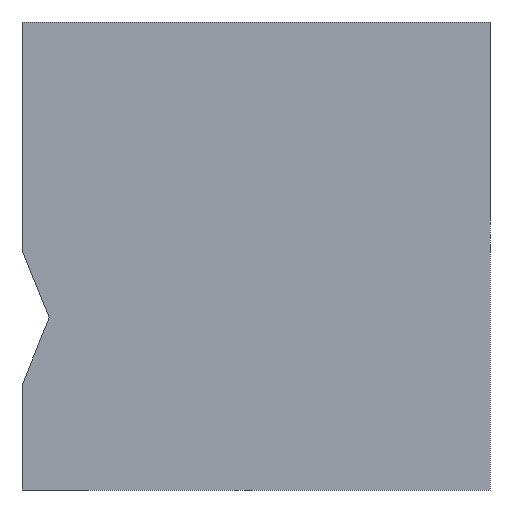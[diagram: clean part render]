
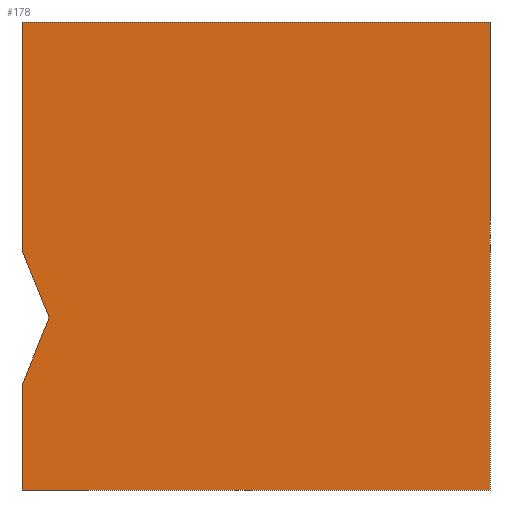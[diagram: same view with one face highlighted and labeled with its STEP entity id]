
A CAD part, front view. The second image highlights one B-rep face of the part: STEP entity #178.
In plain terms, the highlighted planar face has unit normal (0, -1, 0).
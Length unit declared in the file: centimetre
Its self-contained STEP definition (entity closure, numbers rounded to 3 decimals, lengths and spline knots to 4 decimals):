
#2 = CARTESIAN_POINT ( 'NONE',  ( 0., 0., 223.8413 ) ) ;
#19 = VECTOR ( 'NONE', #396, 100. ) ;
#62 = EDGE_CURVE ( 'NONE', #1088, #918, #844, .T. ) ;
#94 = DIRECTION ( 'NONE',  ( 0.374, 0., 0.927 ) ) ;
#132 = ORIENTED_EDGE ( 'NONE', *, *, #341, .F. ) ;
#157 = CARTESIAN_POINT ( 'NONE',  ( 0., 0., 1000. ) ) ;
#174 = VERTEX_POINT ( 'NONE', #1003 ) ;
#178 = ADVANCED_FACE ( 'NONE', ( #760 ), #919, .F. ) ;
#180 = DIRECTION ( 'NONE',  ( 1., 0., 0. ) ) ;
#244 = CARTESIAN_POINT ( 'NONE',  ( 0., 0., 1000. ) ) ;
#251 = EDGE_CURVE ( 'NONE', #324, #296, #1008, .T. ) ;
#261 = CARTESIAN_POINT ( 'NONE',  ( 1000., 0., 1000. ) ) ;
#285 = VECTOR ( 'NONE', #94, 100. ) ;
#296 = VERTEX_POINT ( 'NONE', #261 ) ;
#303 = CARTESIAN_POINT ( 'NONE',  ( 1000., 0., 1000. ) ) ;
#324 = VERTEX_POINT ( 'NONE', #1109 ) ;
#333 = EDGE_CURVE ( 'NONE', #918, #174, #1023, .T. ) ;
#337 = CARTESIAN_POINT ( 'NONE',  ( 0., 0., 0. ) ) ;
#341 = EDGE_CURVE ( 'NONE', #751, #801, #343, .T. ) ;
#343 = LINE ( 'NONE', #948, #374 ) ;
#374 = VECTOR ( 'NONE', #770, 100. ) ;
#396 = DIRECTION ( 'NONE',  ( 0., 0., -1. ) ) ;
#432 = AXIS2_PLACEMENT_3D ( 'NONE', #244, #929, #579 ) ;
#438 = EDGE_LOOP ( 'NONE', ( #573, #132, #783, #666, #986, #1004, #633 ) ) ;
#457 = EDGE_CURVE ( 'NONE', #324, #801, #887, .T. ) ;
#573 = ORIENTED_EDGE ( 'NONE', *, *, #457, .T. ) ;
#579 = DIRECTION ( 'NONE',  ( 0., 0., 1. ) ) ;
#589 = EDGE_CURVE ( 'NONE', #296, #174, #1078, .T. ) ;
#596 = CARTESIAN_POINT ( 'NONE',  ( 0., 0., 0. ) ) ;
#620 = CARTESIAN_POINT ( 'NONE',  ( 0., 0., 223.8413 ) ) ;
#628 = VECTOR ( 'NONE', #1098, 100. ) ;
#633 = ORIENTED_EDGE ( 'NONE', *, *, #251, .F. ) ;
#666 = ORIENTED_EDGE ( 'NONE', *, *, #62, .T. ) ;
#751 = VERTEX_POINT ( 'NONE', #1005 ) ;
#756 = CARTESIAN_POINT ( 'NONE',  ( 0., 0., 1000. ) ) ;
#760 = FACE_OUTER_BOUND ( 'NONE', #438, .T. ) ;
#770 = DIRECTION ( 'NONE',  ( -0.374, 0., 0.927 ) ) ;
#774 = VECTOR ( 'NONE', #876, 100. ) ;
#783 = ORIENTED_EDGE ( 'NONE', *, *, #825, .F. ) ;
#801 = VERTEX_POINT ( 'NONE', #1034 ) ;
#802 = CARTESIAN_POINT ( 'NONE',  ( 0., 0., 1000. ) ) ;
#825 = EDGE_CURVE ( 'NONE', #1088, #751, #1030, .T. ) ;
#844 = LINE ( 'NONE', #157, #19 ) ;
#876 = DIRECTION ( 'NONE',  ( 0., 0., -1. ) ) ;
#887 = LINE ( 'NONE', #802, #774 ) ;
#918 = VERTEX_POINT ( 'NONE', #596 ) ;
#919 = PLANE ( 'NONE',  #432 ) ;
#929 = DIRECTION ( 'NONE',  ( 0., 1., 0. ) ) ;
#948 = CARTESIAN_POINT ( 'NONE',  ( 58.2886, 0., 368.3109 ) ) ;
#956 = VECTOR ( 'NONE', #180, 100. ) ;
#973 = VECTOR ( 'NONE', #996, 100. ) ;
#986 = ORIENTED_EDGE ( 'NONE', *, *, #333, .T. ) ;
#996 = DIRECTION ( 'NONE',  ( 0., 0., -1. ) ) ;
#1003 = CARTESIAN_POINT ( 'NONE',  ( 1000., 0., 0. ) ) ;
#1004 = ORIENTED_EDGE ( 'NONE', *, *, #589, .F. ) ;
#1005 = CARTESIAN_POINT ( 'NONE',  ( 58.2886, 0., 368.3109 ) ) ;
#1008 = LINE ( 'NONE', #756, #628 ) ;
#1023 = LINE ( 'NONE', #337, #956 ) ;
#1030 = LINE ( 'NONE', #2, #285 ) ;
#1034 = CARTESIAN_POINT ( 'NONE',  ( 0., 0., 512.7805 ) ) ;
#1078 = LINE ( 'NONE', #303, #973 ) ;
#1088 = VERTEX_POINT ( 'NONE', #620 ) ;
#1098 = DIRECTION ( 'NONE',  ( 1., 0., 0. ) ) ;
#1109 = CARTESIAN_POINT ( 'NONE',  ( 0., 0., 1000. ) ) ;
